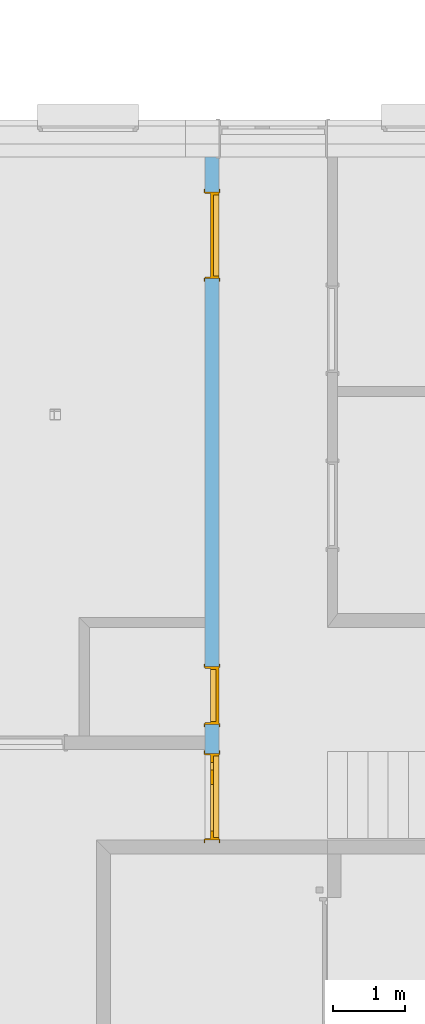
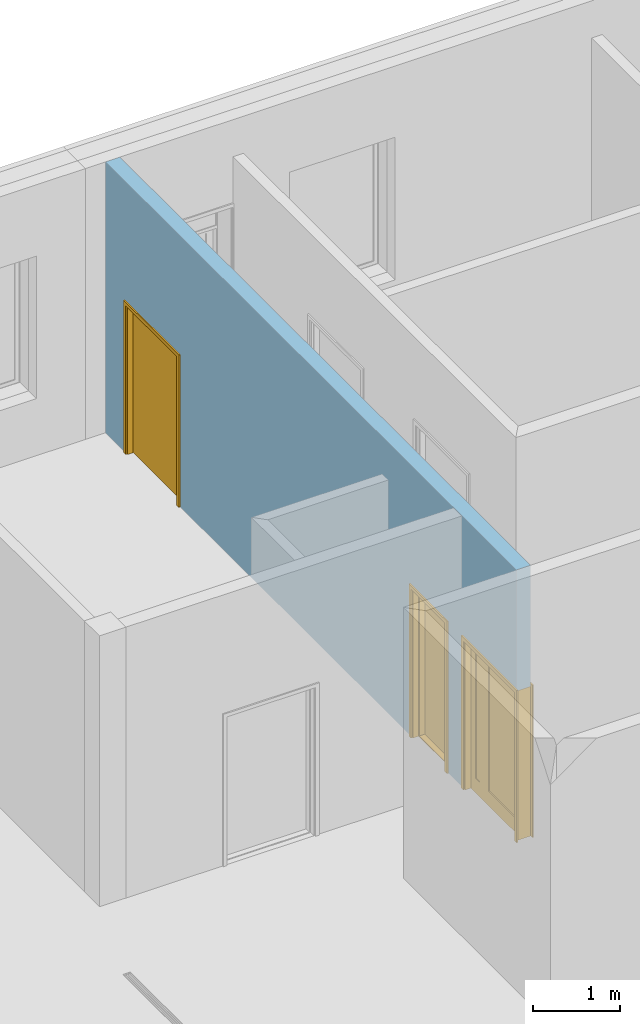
# One storey, part 38 of 112: 3 doors, 3 openings, plus 1 element that does not belong to this part.
"""IFC2X3 building model written with IfcOpenShell, lengths in millimetres."""

import ifcopenshell
import ifcopenshell.guid

model = None  # the IFC model being written
_history = None  # IfcOwnerHistory: only IFC2X3 demands one
_inside = {}  # id of a spatial element -> (the spatial element, [elements in it])
_under = {}  # id of a project, library or spatial element -> (it, [spatial elements below it])
_declared = {}  # id of a project -> (the project, [libraries it declares])
_typed = {}  # id of a type object -> (the type object, [elements of that type])
_made_of = {}  # id of a material, layer set ... -> (it, [elements and type objects made of it])


def new_model(schema):
    """Start an empty IFC model of exactly this schema.

    Asked for "IFC4X3", IfcOpenShell would pick the latest addendum, in which some entities
    have other attributes; the version numbers below select the first issue.
    IFC2X3 requires an IfcOwnerHistory on every rooted entity: one is made here for all.
    """
    global model, _history
    if schema == "IFC4X3":
        model = ifcopenshell.file(schema_version=(4, 3, 0, 0))
    else:
        model = ifcopenshell.file(schema=schema)
    _inside.clear()
    _under.clear()
    _declared.clear()
    _typed.clear()
    _made_of.clear()
    _history = None
    if model.schema == "IFC2X3":
        org = make("IfcOrganization", Name="unknown")
        user = make(
            "IfcPersonAndOrganization",
            ThePerson=make("IfcPerson", FamilyName="unknown"),
            TheOrganization=org,
        )
        app = make(
            "IfcApplication",
            ApplicationDeveloper=org,
            Version="unknown",
            ApplicationFullName="unknown",
            ApplicationIdentifier="unknown",
        )
        _history = make(
            "IfcOwnerHistory",
            OwningUser=user,
            OwningApplication=app,
            ChangeAction="ADDED",
            CreationDate=0,
        )
    return model


def make(cls, **values):
    """One entity of the class cls with the attributes given. An attribute that is None is left unset."""
    return model.create_entity(
        cls, **{name: value for name, value in values.items() if value is not None}
    )


def entity(cls, *values):
    """Any entity or typed value of the class cls, its attributes in the order of the schema. None: left unset."""
    e = model.create_entity(cls)
    for i, value in enumerate(values):
        if value is not None:
            e[i] = value
    return e


def rooted(cls, **values):
    """An entity with a GlobalId (a new one), such as an element, a storey or a relation."""
    return make(cls, GlobalId=ifcopenshell.guid.new(), OwnerHistory=_history, **values)


def si_unit(unit_type, name, prefix=None):
    """IfcSIUnit, for example si_unit("LENGTHUNIT", "METRE", prefix="MILLI")."""
    return make("IfcSIUnit", UnitType=unit_type, Prefix=prefix, Name=name)


def converted_unit(unit_type, name, factor, base, dimensions=None, offset=None):
    """IfcConversionBasedUnit, such as the inch: factor (a typed value) times the base unit."""
    return make(
        "IfcConversionBasedUnit"
        if offset is None
        else "IfcConversionBasedUnitWithOffset",
        ConversionOffset=offset,
        Dimensions=None
        if dimensions is None
        else entity("IfcDimensionalExponents", *dimensions),
        UnitType=unit_type,
        Name=name,
        ConversionFactor=make(
            "IfcMeasureWithUnit", ValueComponent=factor, UnitComponent=base
        ),
    )


def derived_unit(unit_type, elements):
    """IfcDerivedUnit: a product of units, each with its exponent."""
    return make(
        "IfcDerivedUnit",
        Elements=[
            make("IfcDerivedUnitElement", Unit=unit, Exponent=power)
            for unit, power in elements
        ],
        UnitType=unit_type,
    )


def money_unit(currency):
    """IfcMonetaryUnit."""
    return make("IfcMonetaryUnit", Currency=currency)


def assignment(units):
    """IfcUnitAssignment: the units of a project."""
    return None if units is None else make("IfcUnitAssignment", Units=units)


def point(xyz):
    """IfcCartesianPoint."""
    return None if xyz is None else make("IfcCartesianPoint", Coordinates=xyz)


def direction(xyz):
    """IfcDirection."""
    return None if xyz is None else make("IfcDirection", DirectionRatios=xyz)


def frame(location, z_axis=None, x_axis=None):
    """IfcAxis2Placement3D, a coordinate frame: its origin and axes. An axis left out is left unset."""
    return make(
        "IfcAxis2Placement3D",
        Location=point(location),
        Axis=direction(z_axis),
        RefDirection=direction(x_axis),
    )


def frame_2d(location, x_axis=None):
    """IfcAxis2Placement2D, a coordinate frame in the plane: its origin and x axis."""
    return make(
        "IfcAxis2Placement2D", Location=point(location), RefDirection=direction(x_axis)
    )


def origin_with_axes():
    """The frame at (0, 0, 0) with the z axis (0, 0, 1) and the x axis (1, 0, 0) written out."""
    return frame((0.0, 0.0, 0.0), z_axis=(0.0, 0.0, 1.0), x_axis=(1.0, 0.0, 0.0))


def origin_2d_with_axis():
    """The frame at (0, 0) in the plane with the x axis (1, 0) written out."""
    return frame_2d((0.0, 0.0), x_axis=(1.0, 0.0))


def place(relative_to, where):
    """IfcLocalPlacement: puts the frame where relative to a parent placement (None: the world)."""
    return make(
        "IfcLocalPlacement", PlacementRelTo=relative_to, RelativePlacement=where
    )


def context(
    kind, dimensions, precision=None, world=None, true_north=None, identifier=None
):
    """IfcGeometricRepresentationContext, for example the 3D "Model" context."""
    return make(
        "IfcGeometricRepresentationContext",
        ContextIdentifier=identifier,
        ContextType=kind,
        CoordinateSpaceDimension=dimensions,
        Precision=precision,
        WorldCoordinateSystem=world,
        TrueNorth=true_north,
    )


def subcontext(parent, identifier, kind, view, scale=None):
    """IfcGeometricRepresentationSubContext, for example "Body" below "Model"."""
    return make(
        "IfcGeometricRepresentationSubContext",
        ContextIdentifier=identifier,
        ContextType=kind,
        ParentContext=parent,
        TargetScale=scale,
        TargetView=view,
    )


def project(units=None, contexts=None):
    """IfcProject with its units and contexts."""
    return rooted(
        "IfcProject",
        Name="project",
        RepresentationContexts=contexts,
        UnitsInContext=assignment(units),
    )


def spatial(cls, under=None, at=None, **own):
    """A site, building, storey or space (cls), placed at a placement, below another one or the project."""
    s = rooted(cls, ObjectPlacement=at, **own)
    if under is not None:
        _under.setdefault(under.id(), (under, []))[1].append(s)
    return s


def polyline(points):
    """IfcPolyline through the points."""
    return make("IfcPolyline", Points=[point(p) for p in points])


def profile(cls, at=None, kind="AREA", **sizes):
    """A parametric profile (cls). Its sizes go by their IFC names, for example OverallWidth=200.0."""
    return make(cls, ProfileType=kind, Position=at, **sizes)


def rectangle(**sizes):
    """IfcRectangleProfileDef."""
    return profile("IfcRectangleProfileDef", **sizes)


def outline(outer, holes=None, kind="AREA"):
    """IfcArbitraryClosedProfileDef: a profile drawn as a closed curve; with holes, ...WithVoids."""
    if holes is None:
        return make("IfcArbitraryClosedProfileDef", ProfileType=kind, OuterCurve=outer)
    return make(
        "IfcArbitraryProfileDefWithVoids",
        ProfileType=kind,
        OuterCurve=outer,
        InnerCurves=holes,
    )


def extrude(swept, where, along, depth):
    """IfcExtrudedAreaSolid: the profile swept, set in the frame where, extruded along a direction by depth."""
    return make(
        "IfcExtrudedAreaSolid",
        SweptArea=swept,
        Position=where,
        ExtrudedDirection=direction(along),
        Depth=depth,
    )


def faces_of(points, faces, orient=None, outer=None):
    """IfcFace entities. A face is a list of loops; a loop is a list of indices into points, from 0.

    orient and outer hold one flag for each loop. By default every Orientation is true, the
    first loop of a face is its IfcFaceOuterBound and the others are IfcFaceBound.
    """
    made = []
    for i, loops in enumerate(faces):
        bounds = []
        for j, loop in enumerate(loops):
            is_outer = j == 0 if outer is None else outer[i][j]
            bounds.append(
                make(
                    "IfcFaceOuterBound" if is_outer else "IfcFaceBound",
                    Bound=make("IfcPolyLoop", Polygon=[points[k] for k in loop]),
                    Orientation=True if orient is None else orient[i][j],
                )
            )
        made.append(make("IfcFace", Bounds=bounds))
    return made


def open_shell(faces, orient=None, outer=None):
    """The faces of one IfcOpenShell. surface_model builds it on its shared points."""
    return ("IfcOpenShell", faces, orient, outer)


def faceted_brep(points, faces, orient=None, outer=None, voids=None):
    """IfcFacetedBrep: a solid bounded by flat faces; with voids (closed shells), ...WithVoids."""
    shared = [point(p) for p in points]
    hull = make("IfcClosedShell", CfsFaces=faces_of(shared, faces, orient, outer))
    if voids is None:
        return make("IfcFacetedBrep", Outer=hull)
    return make(
        "IfcFacetedBrepWithVoids",
        Outer=hull,
        Voids=[
            make(cls, CfsFaces=faces_of(shared, fs, o, b)) for cls, fs, o, b in voids
        ],
    )


def surface_model(cls, points, shells):
    """IfcFaceBasedSurfaceModel or IfcShellBasedSurfaceModel (cls): surfaces that need not close."""
    shared = [point(p) for p in points]
    made = [make(c, CfsFaces=faces_of(shared, fs, o, b)) for c, fs, o, b in shells]
    if cls == "IfcFaceBasedSurfaceModel":
        return make(cls, FbsmFaces=made)
    return make(cls, SbsmBoundary=made)


def shape(context_of_items, identifier, shape_type, items):
    """IfcShapeRepresentation: the items that make up one representation, for example the "Body"."""
    return make(
        "IfcShapeRepresentation",
        ContextOfItems=context_of_items,
        RepresentationIdentifier=identifier,
        RepresentationType=shape_type,
        Items=items,
    )


def material(Name=None, Category=None):
    """IfcMaterial."""
    return make("IfcMaterial", Name=Name, Category=Category)


def layer(
    of_material, thickness, ventilated=None, Name=None, Category=None, Priority=None
):
    """IfcMaterialLayer: one layer of a wall or slab, of a material (None: an air gap)."""
    return make(
        "IfcMaterialLayer",
        Material=of_material,
        LayerThickness=thickness,
        IsVentilated=ventilated,
        Name=Name,
        Category=Category,
        Priority=Priority,
    )


def layer_set(layers, Name=None):
    """IfcMaterialLayerSet."""
    return make("IfcMaterialLayerSet", MaterialLayers=layers, LayerSetName=Name)


def layer_usage(for_layer_set, set_direction, sense, offset, extent=None):
    """IfcMaterialLayerSetUsage: how a layer set lies in its element."""
    return make(
        "IfcMaterialLayerSetUsage",
        ForLayerSet=for_layer_set,
        LayerSetDirection=set_direction,
        DirectionSense=sense,
        OffsetFromReferenceLine=offset,
        ReferenceExtent=extent,
    )


def made_of(thing, what):
    """Note that an element or type object is made of a material, layer set ...; save() writes the relation."""
    if what is not None:
        _made_of.setdefault(what.id(), (what, []))[1].append(thing)
    return thing


def type_object(cls, material=None, **own):
    """A type object (cls), such as IfcWallType, which elements share."""
    return made_of(rooted(cls, **own), material)


def element(
    cls,
    number,
    at=None,
    inside=None,
    cuts=None,
    type_object=None,
    material=None,
    context=None,
    identifier="Body",
    shape_type=None,
    held_by="IfcProductDefinitionShape",
    body=None,
    shapes=None,
    **own,
):
    """One element of the class cls, such as IfcWall. Its Tag is "e" and its number.

    at: its placement. inside: the storey or other place that contains it. cuts: it is an
    opening in that element (IfcRelVoidsElement). A single representation is given by context,
    identifier, shape_type and body (its items); several are given by shapes. held_by: the class
    of the entity that holds the representations. save() writes the other relations.
    """
    e = rooted(cls, Tag="e%d" % number, ObjectPlacement=at, **own)
    if body is not None:
        shapes = [shape(context, identifier, shape_type, body)]
    if shapes is not None:
        e.Representation = make(held_by, Representations=shapes)
    if inside is not None:
        _inside.setdefault(inside.id(), (inside, []))[1].append(e)
    if cuts is not None:
        rooted(
            "IfcRelVoidsElement", RelatingBuildingElement=cuts, RelatedOpeningElement=e
        )
    if type_object is not None:
        _typed.setdefault(type_object.id(), (type_object, []))[1].append(e)
    return made_of(e, material)


def fill(opening, filler):
    """IfcRelFillsElement: the door or window that sits in an opening."""
    return rooted(
        "IfcRelFillsElement",
        RelatingOpeningElement=opening,
        RelatedBuildingElement=filler,
    )


def aggregate(whole, parts):
    """IfcRelAggregates: a whole, such as a stair, and the parts it consists of."""
    return rooted("IfcRelAggregates", RelatingObject=whole, RelatedObjects=parts)


def save(model, path):
    """Write the relations noted so far, then the file.

    IfcRelAggregates (storeys below a building ...), IfcRelContainedInSpatialStructure (elements
    in a storey), IfcRelDefinesByType, IfcRelAssociatesMaterial and IfcRelDeclares: one each for
    every whole, place, type object, material and project.
    """
    for whole, parts in _under.values():
        aggregate(whole, parts)
    for where, things in _inside.values():
        rooted(
            "IfcRelContainedInSpatialStructure",
            RelatedElements=things,
            RelatingStructure=where,
        )
    for kind, things in _typed.values():
        rooted("IfcRelDefinesByType", RelatedObjects=things, RelatingType=kind)
    for what, things in _made_of.values():
        rooted("IfcRelAssociatesMaterial", RelatedObjects=things, RelatingMaterial=what)
    for by, libraries in _declared.values():
        rooted("IfcRelDeclares", RelatingContext=by, RelatedDefinitions=libraries)
    model.write(path)


model = new_model("IFC2X3")

# Units and contexts
model_context = context("Model", 3, precision=0.01, world=origin_with_axes(), true_north=direction((0.0, 1.0)))
body_context = subcontext(model_context, "Body", "Model", "MODEL_VIEW")
ifc_project = project(units=[si_unit("LENGTHUNIT", "METRE", prefix="MILLI"), si_unit("AREAUNIT", "SQUARE_METRE"), si_unit("VOLUMEUNIT", "CUBIC_METRE"), converted_unit("PLANEANGLEUNIT", "DEGREE", entity("IfcPlaneAngleMeasure", 0.0174532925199), si_unit("PLANEANGLEUNIT", "RADIAN"), dimensions=[0, 0, 0, 0, 0, 0, 0]), si_unit("SOLIDANGLEUNIT", "STERADIAN"), money_unit("EUR"), converted_unit("TIMEUNIT", "Year", entity("IfcTimeMeasure", 31556926.0), si_unit("TIMEUNIT", "SECOND"), dimensions=[0, 0, 1, 0, 0, 0, 0]), si_unit("MASSUNIT", "GRAM", prefix="KILO"), si_unit("THERMODYNAMICTEMPERATUREUNIT", "DEGREE_CELSIUS"), si_unit("LUMINOUSINTENSITYUNIT", "LUMEN"), si_unit("ENERGYUNIT", "JOULE", prefix="MEGA"), derived_unit("THERMALCONDUCTANCEUNIT", [(si_unit("POWERUNIT", "WATT"), 1), (si_unit("LENGTHUNIT", "METRE"), -1), (si_unit("THERMODYNAMICTEMPERATUREUNIT", "KELVIN"), -1)]), derived_unit("SPECIFICHEATCAPACITYUNIT", [(si_unit("ENERGYUNIT", "JOULE"), 1), (si_unit("MASSUNIT", "GRAM", prefix="KILO"), -1), (si_unit("THERMODYNAMICTEMPERATUREUNIT", "KELVIN"), -1)]), derived_unit("MASSDENSITYUNIT", [(si_unit("MASSUNIT", "GRAM", prefix="KILO"), 1), (si_unit("VOLUMEUNIT", "CUBIC_METRE"), -1)])], contexts=[model_context])

# Site, building, storey
site_placement = place(None, origin_with_axes())
site = spatial("IfcSite", under=ifc_project, at=site_placement, Name="Politse- ja Piirivalveameti ning Päästeameti ühishoone", CompositionType="ELEMENT")
building_placement = place(site_placement, origin_with_axes())
building = spatial("IfcBuilding", under=site, at=building_placement, Name="Politse- ja Piirivalveameti ning Päästeameti ühishoone", CompositionType="ELEMENT")
storey_placement = place(building_placement, origin_with_axes())
storey = spatial("IfcBuildingStorey", under=building, at=storey_placement, Name="Esimene korrus", CompositionType="ELEMENT", Elevation=0.0)

# Wall, openings, doors
ifc_material = material(Name="KON-05_Betoon Plokk - Konstuktsioon")
ifc_layer = layer(ifc_material, 190.0, ventilated="UNKNOWN")
ifc_layer_set = layer_set([ifc_layer], Name="SS-03_Sisesein 190")
ifc_layer_usage = layer_usage(ifc_layer_set, "AXIS2", "POSITIVE", -190.0)
wall_type = type_object("IfcWallType", Name="SS-03_Sisesein 190 190", PredefinedType="NOTDEFINED")
wall_placement = place(storey_placement, frame((16900.0858195, 20999.9520832, 0.0), z_axis=(0.0, 0.0, 1.0), x_axis=(0.0, -1.0, 0.0)))
wall = element("IfcWallStandardCase", 1, at=wall_placement, inside=storey, type_object=wall_type, material=ifc_layer_usage, Name="SS-03", context=body_context, shape_type="SweptSolid", body=[
    extrude(outline(polyline([(0.0, -190.0), (9439.9322221, -190.0), (9439.9322221, 0.0), (0.0, 0.0), (0.0, -190.0)])), origin_with_axes(), (0.0, 0.0, 1.0), 3800.0),
])
opening_1_placement = place(wall_placement, frame((1079.90754028, 0.0, 0.0), z_axis=(0.0, 0.0, 1.0), x_axis=(1.0, 0.0, 0.0)))
opening_1 = element("IfcOpeningElement", 2, at=opening_1_placement, cuts=wall, Name="TU-01-2", context=body_context, shape_type="SweptSolid", body=[
    extrude(rectangle(XDim=1200.0, YDim=2100.0, at=origin_2d_with_axis()), frame((0.0, -190.0, 1050.0), z_axis=(0.0, -1.0, 0.0), x_axis=(1.0, 0.0, 0.0)), (0.0, 0.0, -1.0), 570.0),
    extrude(rectangle(XDim=1274.0, YDim=2137.0, at=origin_2d_with_axis()), frame((0.0, -190.0, 1068.5), z_axis=(0.0, -1.0, 0.0), x_axis=(1.0, 0.0, 0.0)), (0.0, 0.0, 1.0), 190.0),
    extrude(rectangle(XDim=1274.0, YDim=2137.0, at=origin_2d_with_axis()), frame((0.0, 0.0, 1068.5), z_axis=(0.0, 1.0, 0.0), x_axis=(1.0, 0.0, 0.0)), (0.0, 0.0, 1.0), 190.0),
])
opening_2_placement = place(wall_placement, frame((7439.98395163, 0.0, 0.0), z_axis=(0.0, 0.0, 1.0), x_axis=(1.0, 0.0, 0.0)))
opening_2 = element("IfcOpeningElement", 3, at=opening_2_placement, cuts=wall, Name="SU-01-6", context=body_context, shape_type="SweptSolid", body=[
    extrude(rectangle(XDim=800.0, YDim=2100.0, at=origin_2d_with_axis()), frame((0.0, -190.0, 1050.0), z_axis=(0.0, 1.0, 0.0), x_axis=(1.0, 0.0, 0.0)), (0.0, 0.0, 1.0), 570.0),
    extrude(rectangle(XDim=874.0, YDim=2137.0, at=origin_2d_with_axis()), frame((0.0, -190.0, 1068.5), z_axis=(0.0, 1.0, 0.0), x_axis=(1.0, 0.0, 0.0)), (0.0, 0.0, -1.0), 190.0),
    extrude(rectangle(XDim=874.0, YDim=2137.0, at=origin_2d_with_axis()), frame((0.0, 0.0, 1068.5), z_axis=(0.0, -1.0, 0.0), x_axis=(1.0, 0.0, 0.0)), (0.0, 0.0, -1.0), 190.0),
])
opening_3_placement = place(wall_placement, frame((8839.9322221, 0.0, 0.0), z_axis=(0.0, 0.0, 1.0), x_axis=(1.0, 0.0, 0.0)))
opening_3 = element("IfcOpeningElement", 4, at=opening_3_placement, cuts=wall, Name="TU-01-1", context=body_context, shape_type="SweptSolid", body=[
    extrude(rectangle(XDim=1200.0, YDim=2100.0, at=origin_2d_with_axis()), frame((0.0, -190.0, 1050.0), z_axis=(0.0, 1.0, 0.0), x_axis=(-1.0, 0.0, 0.0)), (0.0, 0.0, 1.0), 570.0),
    extrude(rectangle(XDim=1274.0, YDim=2137.0, at=origin_2d_with_axis()), frame((0.0, -190.0, 1068.5), z_axis=(0.0, 1.0, 0.0), x_axis=(-1.0, 0.0, 0.0)), (0.0, 0.0, -1.0), 190.0),
    extrude(rectangle(XDim=1274.0, YDim=2137.0, at=origin_2d_with_axis()), frame((0.0, 0.0, 1068.5), z_axis=(0.0, -1.0, 0.0), x_axis=(-1.0, 0.0, 0.0)), (0.0, 0.0, -1.0), 190.0),
])
door_style_1 = type_object("IfcDoorStyle", Name="Double Door Asymmetric 23", ConstructionType="NOTDEFINED", OperationType="DOUBLE_DOOR_SINGLE_SWING", ParameterTakesPrecedence=False, Sizeable=False)
door_1_placement = place(opening_1_placement, frame((600.0, 0.0, 0.0), z_axis=(0.0, 0.0, 1.0), x_axis=(-1.0, 0.0, 0.0)))
door_1 = element("IfcDoor", 5, at=door_1_placement, inside=storey, type_object=door_style_1, Name="TU-01-2", ObjectType="DOOR", OverallHeight=2100.0, OverallWidth=1200.0, context=body_context, shape_type="Brep", body=[
    faceted_brep([(40.0, 0.0, 0.0), (40.0, 0.0, 12.0), (40.0, 75.0, 12.0), (40.0, 75.0, 0.0), (1160.0, 0.0, 0.0), (1160.0, 0.0, 12.0), (1160.0, 75.0, 12.0), (1172.0, 75.0, 12.0), (28.0, 75.0, 12.0), (28.0, 75.0, 0.0), (1172.0, 75.0, 0.0), (1160.0, 75.0, 0.0)], [[[0, 1, 2, 3]], [[4, 5, 1, 0]], [[1, 5, 6, 7, 8, 2]], [[3, 2, 8, 9]], [[0, 3, 9, 10, 11, 4]], [[11, 6, 5, 4]], [[10, 7, 6, 11]], [[9, 8, 7, 10]]]),
    faceted_brep([(1200.0, 115.0, 0.0), (1175.0, 115.0, 0.0), (1175.0, 190.0, 0.0), (1200.0, 190.0, 0.0), (1200.0, 115.0, 2100.0), (1175.0, 115.0, 2075.0), (1175.0, 190.0, 2075.0), (1200.0, 190.0, 2100.0)], [[[0, 1, 2, 3]], [[0, 4, 5, 1]], [[1, 5, 6, 2]], [[3, 2, 6, 7]], [[4, 0, 3, 7]], [[5, 4, 7, 6]]]),
    faceted_brep([(0.0, 115.0, 2100.0), (25.0, 115.0, 2075.0), (25.0, 190.0, 2075.0), (0.0, 190.0, 2100.0), (0.0, 115.0, 0.0), (25.0, 115.0, 0.0), (25.0, 190.0, 0.0), (0.0, 190.0, 0.0)], [[[0, 1, 2, 3]], [[0, 4, 5, 1]], [[1, 5, 6, 2]], [[3, 2, 6, 7]], [[4, 0, 3, 7]], [[5, 4, 7, 6]]]),
    faceted_brep([(1175.0, 115.0, 2075.0), (25.0, 115.0, 2075.0), (25.0, 190.0, 2075.0), (1175.0, 190.0, 2075.0), (1200.0, 115.0, 2100.0), (0.0, 115.0, 2100.0), (0.0, 190.0, 2100.0), (1200.0, 190.0, 2100.0)], [[[0, 1, 2, 3]], [[0, 4, 5, 1]], [[1, 5, 6, 2]], [[3, 2, 6, 7]], [[4, 0, 3, 7]], [[5, 4, 7, 6]]]),
    faceted_brep([(1237.0, 209.0, 0.0), (1237.0, 190.0, 0.0), (1187.0, 190.0, 0.0), (1187.0, 209.0, 0.0), (1237.0, 209.0, 2137.0), (1237.0, 190.0, 2137.0), (1187.0, 190.0, 2087.0), (1187.0, 209.0, 2087.0)], [[[0, 1, 2, 3]], [[4, 5, 1, 0]], [[1, 5, 6, 2]], [[3, 2, 6, 7]], [[0, 3, 7, 4]], [[7, 6, 5, 4]]]),
    faceted_brep([(-37.0, 209.0, 2137.0), (-37.0, 190.0, 2137.0), (13.0, 190.0, 2087.0), (13.0, 209.0, 2087.0), (-37.0, 209.0, 0.0), (-37.0, 190.0, 0.0), (13.0, 190.0, 0.0), (13.0, 209.0, 0.0)], [[[0, 1, 2, 3]], [[4, 5, 1, 0]], [[1, 5, 6, 2]], [[3, 2, 6, 7]], [[0, 3, 7, 4]], [[7, 6, 5, 4]]]),
    faceted_brep([(1237.0, 209.0, 2137.0), (1237.0, 190.0, 2137.0), (1187.0, 190.0, 2087.0), (1187.0, 209.0, 2087.0), (-37.0, 209.0, 2137.0), (-37.0, 190.0, 2137.0), (13.0, 190.0, 2087.0), (13.0, 209.0, 2087.0)], [[[0, 1, 2, 3]], [[4, 5, 1, 0]], [[1, 5, 6, 2]], [[3, 2, 6, 7]], [[0, 3, 7, 4]], [[7, 6, 5, 4]]]),
    faceted_brep([(1237.0, -19.0, 0.0), (1187.0, -19.0, 0.0), (1187.0, 0.0, 0.0), (1237.0, 0.0, 0.0), (1237.0, -19.0, 2137.0), (1187.0, -19.0, 2087.0), (1187.0, 0.0, 2087.0), (1237.0, 0.0, 2137.0)], [[[0, 1, 2, 3]], [[0, 4, 5, 1]], [[1, 5, 6, 2]], [[3, 2, 6, 7]], [[4, 0, 3, 7]], [[5, 4, 7, 6]]]),
    faceted_brep([(-37.0, -19.0, 2137.0), (13.0, -19.0, 2087.0), (13.0, 0.0, 2087.0), (-37.0, 0.0, 2137.0), (-37.0, -19.0, 0.0), (13.0, -19.0, 0.0), (13.0, 0.0, 0.0), (-37.0, 0.0, 0.0)], [[[0, 1, 2, 3]], [[0, 4, 5, 1]], [[1, 5, 6, 2]], [[3, 2, 6, 7]], [[4, 0, 3, 7]], [[5, 4, 7, 6]]]),
    faceted_brep([(1237.0, -19.0, 2137.0), (1187.0, -19.0, 2087.0), (1187.0, 0.0, 2087.0), (1237.0, 0.0, 2137.0), (-37.0, -19.0, 2137.0), (13.0, -19.0, 2087.0), (13.0, 0.0, 2087.0), (-37.0, 0.0, 2137.0)], [[[0, 1, 2, 3]], [[0, 4, 5, 1]], [[1, 5, 6, 2]], [[3, 2, 6, 7]], [[4, 0, 3, 7]], [[5, 4, 7, 6]]]),
    faceted_brep([(1160.0, 75.0, 0.0), (1160.0, 0.0, 0.0), (1160.0, 0.0, 2060.0), (1160.0, 75.0, 2060.0), (1172.0, 75.0, 0.0), (1172.0, 115.0, 0.0), (1200.0, 115.0, 0.0), (1200.0, 0.0, 0.0), (1200.0, 0.0, 2060.0), (1172.0, 75.0, 2060.0), (1200.0, 115.0, 2060.0), (1172.0, 115.0, 2060.0)], [[[0, 1, 2, 3]], [[4, 5, 6, 7, 1, 0]], [[1, 7, 8, 2]], [[9, 3, 2, 8, 10, 11]], [[9, 4, 0, 3]], [[11, 5, 4, 9]], [[11, 10, 6, 5]], [[6, 10, 8, 7]]]),
    faceted_brep([(28.0, 75.0, 2060.0), (28.0, 115.0, 2060.0), (0.0, 115.0, 2060.0), (0.0, 0.0, 2060.0), (40.0, 0.0, 2060.0), (40.0, 75.0, 2060.0), (28.0, 75.0, 0.0), (28.0, 115.0, 0.0), (0.0, 115.0, 0.0), (0.0, 0.0, 0.0), (40.0, 0.0, 0.0), (40.0, 75.0, 0.0)], [[[0, 1, 2, 3, 4, 5]], [[0, 6, 7, 1]], [[7, 8, 2, 1]], [[2, 8, 9, 3]], [[3, 9, 10, 4]], [[5, 4, 10, 11]], [[5, 11, 6, 0]], [[6, 11, 10, 9, 8, 7]]]),
    faceted_brep([(1172.0, 115.0, 2072.0), (28.0, 115.0, 2072.0), (28.0, 115.0, 2060.0), (0.0, 115.0, 2060.0), (0.0, 115.0, 2100.0), (1200.0, 115.0, 2100.0), (1200.0, 115.0, 2060.0), (1172.0, 115.0, 2060.0), (1172.0, 75.0, 2072.0), (28.0, 75.0, 2072.0), (28.0, 75.0, 2060.0), (40.0, 75.0, 2060.0), (40.0, 0.0, 2060.0), (0.0, 0.0, 2060.0), (0.0, 0.0, 2100.0), (1200.0, 0.0, 2100.0), (1200.0, 0.0, 2060.0), (1172.0, 75.0, 2060.0), (1160.0, 0.0, 2060.0), (1160.0, 75.0, 2060.0)], [[[0, 1, 2, 3, 4, 5, 6, 7]], [[0, 8, 9, 1]], [[1, 9, 10, 2]], [[10, 11, 12, 13, 3, 2]], [[4, 3, 13, 14]], [[5, 4, 14, 15]], [[6, 5, 15, 16]], [[17, 7, 6, 16, 18, 19]], [[7, 17, 8, 0]], [[10, 9, 8, 17, 19, 11]], [[19, 18, 12, 11]], [[12, 18, 16, 15, 14, 13]]]),
    faceted_brep([(28.0, 115.0, 0.0), (328.0, 115.0, 0.0), (328.0, 75.0, 0.0), (28.0, 75.0, 0.0), (28.0, 115.0, 2072.0), (328.0, 115.0, 2072.0), (328.0, 75.0, 2072.0), (28.0, 75.0, 2072.0)], [[[0, 1, 2, 3]], [[0, 4, 5, 1]], [[1, 5, 6, 2]], [[3, 2, 6, 7]], [[4, 0, 3, 7]], [[5, 4, 7, 6]]]),
    faceted_brep([(1172.0, 115.0, 0.0), (1172.0, 75.0, 0.0), (328.0, 75.0, 0.0), (328.0, 115.0, 0.0), (1172.0, 115.0, 2072.0), (1172.0, 75.0, 2072.0), (328.0, 75.0, 2072.0), (328.0, 115.0, 2072.0)], [[[0, 1, 2, 3]], [[4, 5, 1, 0]], [[1, 5, 6, 2]], [[3, 2, 6, 7]], [[0, 3, 7, 4]], [[7, 6, 5, 4]]]),
])
fill(opening_1, door_1)
door_style_2 = type_object("IfcDoorStyle", Name="Door 23", ConstructionType="NOTDEFINED", OperationType="SINGLE_SWING_RIGHT", ParameterTakesPrecedence=False, Sizeable=False)
door_2_placement = place(opening_2_placement, frame((-400.0, 0.0, 0.0), z_axis=(0.0, 0.0, 1.0), x_axis=(1.0, 0.0, 0.0)))
door_2 = element("IfcDoor", 6, at=door_2_placement, inside=storey, type_object=door_style_2, Name="SU-01-6", ObjectType="DOOR", OverallHeight=2100.0, OverallWidth=800.0, context=body_context, shape_type="Brep", body=[
    faceted_brep([(772.0, -40.0, 0.0), (772.0, -40.0, 12.0), (760.0, -40.0, 12.0), (760.0, -40.0, 0.0), (28.0, -40.0, 0.0), (28.0, -40.0, 12.0), (40.0, -40.0, 12.0), (40.0, -115.0, 12.0), (760.0, -115.0, 12.0), (760.0, -115.0, 0.0), (40.0, -115.0, 0.0), (40.0, -40.0, 0.0)], [[[0, 1, 2, 3]], [[4, 5, 1, 0]], [[1, 5, 6, 7, 8, 2]], [[3, 2, 8, 9]], [[0, 3, 9, 10, 11, 4]], [[11, 6, 5, 4]], [[10, 7, 6, 11]], [[9, 8, 7, 10]]]),
    faceted_brep([(0.0, -115.0, 0.0), (25.0, -115.0, 0.0), (25.0, -190.0, 0.0), (0.0, -190.0, 0.0), (0.0, -115.0, 2100.0), (25.0, -115.0, 2075.0), (25.0, -190.0, 2075.0), (0.0, -190.0, 2100.0)], [[[0, 1, 2, 3]], [[0, 4, 5, 1]], [[1, 5, 6, 2]], [[3, 2, 6, 7]], [[4, 0, 3, 7]], [[5, 4, 7, 6]]]),
    faceted_brep([(800.0, -115.0, 2100.0), (775.0, -115.0, 2075.0), (775.0, -190.0, 2075.0), (800.0, -190.0, 2100.0), (800.0, -115.0, 0.0), (775.0, -115.0, 0.0), (775.0, -190.0, 0.0), (800.0, -190.0, 0.0)], [[[0, 1, 2, 3]], [[0, 4, 5, 1]], [[1, 5, 6, 2]], [[3, 2, 6, 7]], [[4, 0, 3, 7]], [[5, 4, 7, 6]]]),
    faceted_brep([(25.0, -115.0, 2075.0), (775.0, -115.0, 2075.0), (775.0, -190.0, 2075.0), (25.0, -190.0, 2075.0), (0.0, -115.0, 2100.0), (800.0, -115.0, 2100.0), (800.0, -190.0, 2100.0), (0.0, -190.0, 2100.0)], [[[0, 1, 2, 3]], [[0, 4, 5, 1]], [[1, 5, 6, 2]], [[3, 2, 6, 7]], [[4, 0, 3, 7]], [[5, 4, 7, 6]]]),
    faceted_brep([(-37.0, -209.0, 0.0), (-37.0, -190.0, 0.0), (13.0, -190.0, 0.0), (13.0, -209.0, 0.0), (-37.0, -209.0, 2137.0), (-37.0, -190.0, 2137.0), (13.0, -190.0, 2087.0), (13.0, -209.0, 2087.0)], [[[0, 1, 2, 3]], [[4, 5, 1, 0]], [[1, 5, 6, 2]], [[3, 2, 6, 7]], [[0, 3, 7, 4]], [[7, 6, 5, 4]]]),
    faceted_brep([(837.0, -209.0, 2137.0), (837.0, -190.0, 2137.0), (787.0, -190.0, 2087.0), (787.0, -209.0, 2087.0), (837.0, -209.0, 0.0), (837.0, -190.0, 0.0), (787.0, -190.0, 0.0), (787.0, -209.0, 0.0)], [[[0, 1, 2, 3]], [[4, 5, 1, 0]], [[1, 5, 6, 2]], [[3, 2, 6, 7]], [[0, 3, 7, 4]], [[7, 6, 5, 4]]]),
    faceted_brep([(-37.0, -209.0, 2137.0), (-37.0, -190.0, 2137.0), (13.0, -190.0, 2087.0), (13.0, -209.0, 2087.0), (837.0, -209.0, 2137.0), (837.0, -190.0, 2137.0), (787.0, -190.0, 2087.0), (787.0, -209.0, 2087.0)], [[[0, 1, 2, 3]], [[4, 5, 1, 0]], [[1, 5, 6, 2]], [[3, 2, 6, 7]], [[0, 3, 7, 4]], [[7, 6, 5, 4]]]),
    faceted_brep([(-37.0, 19.0, 0.0), (13.0, 19.0, 0.0), (13.0, 0.0, 0.0), (-37.0, 0.0, 0.0), (-37.0, 19.0, 2137.0), (13.0, 19.0, 2087.0), (13.0, 0.0, 2087.0), (-37.0, 0.0, 2137.0)], [[[0, 1, 2, 3]], [[0, 4, 5, 1]], [[1, 5, 6, 2]], [[3, 2, 6, 7]], [[4, 0, 3, 7]], [[5, 4, 7, 6]]]),
    faceted_brep([(837.0, 19.0, 2137.0), (787.0, 19.0, 2087.0), (787.0, 0.0, 2087.0), (837.0, 0.0, 2137.0), (837.0, 19.0, 0.0), (787.0, 19.0, 0.0), (787.0, 0.0, 0.0), (837.0, 0.0, 0.0)], [[[0, 1, 2, 3]], [[0, 4, 5, 1]], [[1, 5, 6, 2]], [[3, 2, 6, 7]], [[4, 0, 3, 7]], [[5, 4, 7, 6]]]),
    faceted_brep([(-37.0, 19.0, 2137.0), (13.0, 19.0, 2087.0), (13.0, 0.0, 2087.0), (-37.0, 0.0, 2137.0), (837.0, 19.0, 2137.0), (787.0, 19.0, 2087.0), (787.0, 0.0, 2087.0), (837.0, 0.0, 2137.0)], [[[0, 1, 2, 3]], [[0, 4, 5, 1]], [[1, 5, 6, 2]], [[3, 2, 6, 7]], [[4, 0, 3, 7]], [[5, 4, 7, 6]]]),
    faceted_brep([(40.0, -40.0, 0.0), (40.0, -40.0, 2060.0), (40.0, -115.0, 2060.0), (40.0, -115.0, 0.0), (28.0, -40.0, 2060.0), (28.0, -40.0, 0.0), (28.0, 0.0, 2060.0), (0.0, 0.0, 2060.0), (0.0, -115.0, 2060.0), (0.0, -115.0, 0.0), (0.0, 0.0, 0.0), (28.0, 0.0, 0.0)], [[[0, 1, 2, 3]], [[4, 1, 0, 5]], [[4, 6, 7, 8, 2, 1]], [[3, 2, 8, 9]], [[5, 0, 3, 9, 10, 11]], [[6, 4, 5, 11]], [[6, 11, 10, 7]], [[10, 9, 8, 7]]]),
    faceted_brep([(772.0, -40.0, 2060.0), (760.0, -40.0, 2060.0), (760.0, -115.0, 2060.0), (800.0, -115.0, 2060.0), (800.0, 0.0, 2060.0), (772.0, 0.0, 2060.0), (772.0, -40.0, 0.0), (760.0, -40.0, 0.0), (760.0, -115.0, 0.0), (800.0, -115.0, 0.0), (800.0, 0.0, 0.0), (772.0, 0.0, 0.0)], [[[0, 1, 2, 3, 4, 5]], [[1, 0, 6, 7]], [[1, 7, 8, 2]], [[3, 2, 8, 9]], [[4, 3, 9, 10]], [[11, 5, 4, 10]], [[0, 5, 11, 6]], [[6, 11, 10, 9, 8, 7]]]),
    faceted_brep([(28.0, 0.0, 2072.0), (28.0, 0.0, 2060.0), (0.0, 0.0, 2060.0), (0.0, 0.0, 2100.0), (800.0, 0.0, 2100.0), (800.0, 0.0, 2060.0), (772.0, 0.0, 2060.0), (772.0, 0.0, 2072.0), (28.0, -40.0, 2072.0), (28.0, -40.0, 2060.0), (40.0, -40.0, 2060.0), (40.0, -115.0, 2060.0), (0.0, -115.0, 2060.0), (0.0, -115.0, 2100.0), (800.0, -115.0, 2100.0), (800.0, -115.0, 2060.0), (772.0, -40.0, 2060.0), (760.0, -115.0, 2060.0), (760.0, -40.0, 2060.0), (772.0, -40.0, 2072.0)], [[[0, 1, 2, 3, 4, 5, 6, 7]], [[1, 0, 8, 9]], [[9, 10, 11, 12, 2, 1]], [[2, 12, 13, 3]], [[3, 13, 14, 4]], [[4, 14, 15, 5]], [[16, 6, 5, 15, 17, 18]], [[7, 6, 16, 19]], [[0, 7, 19, 8]], [[16, 18, 10, 9, 8, 19]], [[10, 18, 17, 11]], [[17, 15, 14, 13, 12, 11]]]),
    faceted_brep([(772.0, 0.0, 0.0), (772.0, -40.0, 0.0), (28.0, -40.0, 0.0), (28.0, 0.0, 0.0), (772.0, 0.0, 2072.0), (772.0, -40.0, 2072.0), (28.0, -40.0, 2072.0), (28.0, 0.0, 2072.0)], [[[0, 1, 2, 3]], [[4, 5, 1, 0]], [[1, 5, 6, 2]], [[3, 2, 6, 7]], [[0, 3, 7, 4]], [[7, 6, 5, 4]]]),
])
fill(opening_2, door_2)
door_style_3 = type_object("IfcDoorStyle", Name="Double Door Asymmetric 23", ConstructionType="NOTDEFINED", OperationType="DOUBLE_DOOR_SINGLE_SWING", ParameterTakesPrecedence=False, Sizeable=False)
door_3_placement = place(opening_3_placement, frame((600.0, 0.0, 0.0), z_axis=(0.0, 0.0, 1.0), x_axis=(-1.0, 0.0, 0.0)))
door_3 = element("IfcDoor", 7, at=door_3_placement, inside=storey, type_object=door_style_3, Name="TU-01-1", ObjectType="DOOR", OverallHeight=2100.0, OverallWidth=1200.0, context=body_context, shape_type="SurfaceModel", body=[
    faceted_brep([(1160.0, 0.0, 0.0), (1160.0, 75.0, 0.0), (1160.0, 75.0, 12.0), (1160.0, 0.0, 12.0), (40.0, 0.0, 0.0), (40.0, 75.0, 0.0), (28.0, 75.0, 0.0), (1172.0, 75.0, 0.0), (1172.0, 75.0, 12.0), (28.0, 75.0, 12.0), (40.0, 75.0, 12.0), (40.0, 0.0, 12.0)], [[[0, 1, 2, 3]], [[0, 4, 5, 6, 7, 1]], [[1, 7, 8, 2]], [[3, 2, 8, 9, 10, 11]], [[4, 0, 3, 11]], [[5, 4, 11, 10]], [[6, 5, 10, 9]], [[7, 6, 9, 8]]]),
    faceted_brep([(0.0, 115.0, 0.0), (0.0, 190.0, 0.0), (25.0, 190.0, 0.0), (25.0, 115.0, 0.0), (0.0, 115.0, 2100.0), (0.0, 190.0, 2100.0), (25.0, 190.0, 2075.0), (25.0, 115.0, 2075.0)], [[[0, 1, 2, 3]], [[4, 5, 1, 0]], [[1, 5, 6, 2]], [[3, 2, 6, 7]], [[0, 3, 7, 4]], [[7, 6, 5, 4]]]),
    faceted_brep([(1200.0, 115.0, 2100.0), (1200.0, 190.0, 2100.0), (1175.0, 190.0, 2075.0), (1175.0, 115.0, 2075.0), (1200.0, 115.0, 0.0), (1200.0, 190.0, 0.0), (1175.0, 190.0, 0.0), (1175.0, 115.0, 0.0)], [[[0, 1, 2, 3]], [[4, 5, 1, 0]], [[1, 5, 6, 2]], [[3, 2, 6, 7]], [[0, 3, 7, 4]], [[7, 6, 5, 4]]]),
    faceted_brep([(25.0, 115.0, 2075.0), (25.0, 190.0, 2075.0), (1175.0, 190.0, 2075.0), (1175.0, 115.0, 2075.0), (0.0, 115.0, 2100.0), (0.0, 190.0, 2100.0), (1200.0, 190.0, 2100.0), (1200.0, 115.0, 2100.0)], [[[0, 1, 2, 3]], [[4, 5, 1, 0]], [[1, 5, 6, 2]], [[3, 2, 6, 7]], [[0, 3, 7, 4]], [[7, 6, 5, 4]]]),
    faceted_brep([(-37.0, 209.0, 0.0), (13.0, 209.0, 0.0), (13.0, 190.0, 0.0), (-37.0, 190.0, 0.0), (-37.0, 209.0, 2137.0), (13.0, 209.0, 2087.0), (13.0, 190.0, 2087.0), (-37.0, 190.0, 2137.0)], [[[0, 1, 2, 3]], [[0, 4, 5, 1]], [[1, 5, 6, 2]], [[3, 2, 6, 7]], [[4, 0, 3, 7]], [[5, 4, 7, 6]]]),
    faceted_brep([(1237.0, 209.0, 2137.0), (1187.0, 209.0, 2087.0), (1187.0, 190.0, 2087.0), (1237.0, 190.0, 2137.0), (1237.0, 209.0, 0.0), (1187.0, 209.0, 0.0), (1187.0, 190.0, 0.0), (1237.0, 190.0, 0.0)], [[[0, 1, 2, 3]], [[0, 4, 5, 1]], [[1, 5, 6, 2]], [[3, 2, 6, 7]], [[4, 0, 3, 7]], [[5, 4, 7, 6]]]),
    faceted_brep([(-37.0, 209.0, 2137.0), (13.0, 209.0, 2087.0), (13.0, 190.0, 2087.0), (-37.0, 190.0, 2137.0), (1237.0, 209.0, 2137.0), (1187.0, 209.0, 2087.0), (1187.0, 190.0, 2087.0), (1237.0, 190.0, 2137.0)], [[[0, 1, 2, 3]], [[0, 4, 5, 1]], [[1, 5, 6, 2]], [[3, 2, 6, 7]], [[4, 0, 3, 7]], [[5, 4, 7, 6]]]),
    faceted_brep([(-37.0, -19.0, 0.0), (-37.0, 0.0, 0.0), (13.0, 0.0, 0.0), (13.0, -19.0, 0.0), (-37.0, -19.0, 2137.0), (-37.0, 0.0, 2137.0), (13.0, 0.0, 2087.0), (13.0, -19.0, 2087.0)], [[[0, 1, 2, 3]], [[4, 5, 1, 0]], [[1, 5, 6, 2]], [[3, 2, 6, 7]], [[0, 3, 7, 4]], [[7, 6, 5, 4]]]),
    faceted_brep([(1237.0, -19.0, 2137.0), (1237.0, 0.0, 2137.0), (1187.0, 0.0, 2087.0), (1187.0, -19.0, 2087.0), (1237.0, -19.0, 0.0), (1237.0, 0.0, 0.0), (1187.0, 0.0, 0.0), (1187.0, -19.0, 0.0)], [[[0, 1, 2, 3]], [[4, 5, 1, 0]], [[1, 5, 6, 2]], [[3, 2, 6, 7]], [[0, 3, 7, 4]], [[7, 6, 5, 4]]]),
    faceted_brep([(-37.0, -19.0, 2137.0), (-37.0, 0.0, 2137.0), (13.0, 0.0, 2087.0), (13.0, -19.0, 2087.0), (1237.0, -19.0, 2137.0), (1237.0, 0.0, 2137.0), (1187.0, 0.0, 2087.0), (1187.0, -19.0, 2087.0)], [[[0, 1, 2, 3]], [[4, 5, 1, 0]], [[1, 5, 6, 2]], [[3, 2, 6, 7]], [[0, 3, 7, 4]], [[7, 6, 5, 4]]]),
    faceted_brep([(40.0, 75.0, 0.0), (40.0, 75.0, 2060.0), (40.0, 0.0, 2060.0), (40.0, 0.0, 0.0), (28.0, 75.0, 2060.0), (28.0, 75.0, 0.0), (28.0, 115.0, 2060.0), (0.0, 115.0, 2060.0), (0.0, 0.0, 2060.0), (0.0, 0.0, 0.0), (0.0, 115.0, 0.0), (28.0, 115.0, 0.0)], [[[0, 1, 2, 3]], [[4, 1, 0, 5]], [[4, 6, 7, 8, 2, 1]], [[3, 2, 8, 9]], [[5, 0, 3, 9, 10, 11]], [[6, 4, 5, 11]], [[6, 11, 10, 7]], [[10, 9, 8, 7]]]),
    faceted_brep([(1172.0, 75.0, 2060.0), (1160.0, 75.0, 2060.0), (1160.0, 0.0, 2060.0), (1200.0, 0.0, 2060.0), (1200.0, 115.0, 2060.0), (1172.0, 115.0, 2060.0), (1172.0, 75.0, 0.0), (1160.0, 75.0, 0.0), (1160.0, 0.0, 0.0), (1200.0, 0.0, 0.0), (1200.0, 115.0, 0.0), (1172.0, 115.0, 0.0)], [[[0, 1, 2, 3, 4, 5]], [[1, 0, 6, 7]], [[1, 7, 8, 2]], [[3, 2, 8, 9]], [[4, 3, 9, 10]], [[11, 5, 4, 10]], [[0, 5, 11, 6]], [[6, 11, 10, 9, 8, 7]]]),
    faceted_brep([(28.0, 115.0, 2072.0), (28.0, 115.0, 2060.0), (0.0, 115.0, 2060.0), (0.0, 115.0, 2100.0), (1200.0, 115.0, 2100.0), (1200.0, 115.0, 2060.0), (1172.0, 115.0, 2060.0), (1172.0, 115.0, 2072.0), (28.0, 75.0, 2072.0), (28.0, 75.0, 2060.0), (40.0, 75.0, 2060.0), (40.0, 0.0, 2060.0), (0.0, 0.0, 2060.0), (0.0, 0.0, 2100.0), (1200.0, 0.0, 2100.0), (1200.0, 0.0, 2060.0), (1172.0, 75.0, 2060.0), (1160.0, 0.0, 2060.0), (1160.0, 75.0, 2060.0), (1172.0, 75.0, 2072.0)], [[[0, 1, 2, 3, 4, 5, 6, 7]], [[1, 0, 8, 9]], [[9, 10, 11, 12, 2, 1]], [[2, 12, 13, 3]], [[3, 13, 14, 4]], [[4, 14, 15, 5]], [[16, 6, 5, 15, 17, 18]], [[7, 6, 16, 19]], [[0, 7, 19, 8]], [[16, 18, 10, 9, 8, 19]], [[10, 18, 17, 11]], [[17, 15, 14, 13, 12, 11]]]),
    faceted_brep([(1172.0, 115.0, 200.0), (1172.0, 75.0, 200.0), (1072.0, 75.0, 200.0), (1072.0, 115.0, 200.0), (1172.0, 115.0, 1972.0), (1172.0, 75.0, 1972.0), (1072.0, 75.0, 1972.0), (1072.0, 115.0, 1972.0)], [[[0, 1, 2, 3]], [[4, 5, 1, 0]], [[1, 5, 6, 2]], [[3, 2, 6, 7]], [[0, 3, 7, 4]], [[7, 6, 5, 4]]]),
    faceted_brep([(872.0, 115.0, 200.0), (872.0, 75.0, 200.0), (872.0, 75.0, 1972.0), (872.0, 115.0, 1972.0), (972.0, 115.0, 200.0), (972.0, 75.0, 200.0), (972.0, 75.0, 1972.0), (972.0, 115.0, 1972.0)], [[[0, 1, 2, 3]], [[4, 5, 1, 0]], [[1, 5, 6, 2]], [[3, 2, 6, 7]], [[0, 3, 7, 4]], [[7, 6, 5, 4]]]),
    faceted_brep([(1172.0, 115.0, 0.0), (1172.0, 75.0, 0.0), (872.0, 75.0, 0.0), (872.0, 115.0, 0.0), (1172.0, 115.0, 200.0), (1172.0, 75.0, 200.0), (1072.0, 75.0, 200.0), (972.0, 75.0, 200.0), (872.0, 75.0, 200.0), (872.0, 115.0, 200.0), (972.0, 115.0, 200.0), (1072.0, 115.0, 200.0)], [[[0, 1, 2, 3]], [[4, 5, 1, 0]], [[1, 5, 6, 7, 8, 2]], [[3, 2, 8, 9]], [[0, 3, 9, 10, 11, 4]], [[11, 6, 5, 4]], [[10, 7, 6, 11]], [[9, 8, 7, 10]]]),
    faceted_brep([(1172.0, 115.0, 2072.0), (1172.0, 75.0, 2072.0), (1172.0, 75.0, 1972.0), (1172.0, 115.0, 1972.0), (872.0, 115.0, 2072.0), (872.0, 75.0, 2072.0), (872.0, 75.0, 1972.0), (972.0, 75.0, 1972.0), (1072.0, 75.0, 1972.0), (1072.0, 115.0, 1972.0), (972.0, 115.0, 1972.0), (872.0, 115.0, 1972.0)], [[[0, 1, 2, 3]], [[4, 5, 1, 0]], [[1, 5, 6, 7, 8, 2]], [[3, 2, 8, 9]], [[0, 3, 9, 10, 11, 4]], [[11, 6, 5, 4]], [[10, 7, 6, 11]], [[9, 8, 7, 10]]]),
    surface_model("IfcShellBasedSurfaceModel", [(1072.0, 101.0, 200.0), (972.0, 101.0, 200.0), (972.0, 101.0, 1972.0), (1072.0, 101.0, 1972.0)], [open_shell([[[0, 1, 2, 3]]])]),
    surface_model("IfcShellBasedSurfaceModel", [(1072.0, 89.0, 200.0), (1072.0, 89.0, 1972.0), (972.0, 89.0, 1972.0), (972.0, 89.0, 200.0)], [open_shell([[[0, 1, 2, 3]]])]),
    faceted_brep([(28.0, 115.0, 200.0), (128.0, 115.0, 200.0), (128.0, 75.0, 200.0), (28.0, 75.0, 200.0), (28.0, 115.0, 1972.0), (128.0, 115.0, 1972.0), (128.0, 75.0, 1972.0), (28.0, 75.0, 1972.0)], [[[0, 1, 2, 3]], [[0, 4, 5, 1]], [[1, 5, 6, 2]], [[3, 2, 6, 7]], [[4, 0, 3, 7]], [[5, 4, 7, 6]]]),
    faceted_brep([(872.0, 115.0, 200.0), (872.0, 115.0, 1972.0), (872.0, 75.0, 1972.0), (872.0, 75.0, 200.0), (772.0, 115.0, 200.0), (772.0, 115.0, 1972.0), (772.0, 75.0, 1972.0), (772.0, 75.0, 200.0)], [[[0, 1, 2, 3]], [[0, 4, 5, 1]], [[1, 5, 6, 2]], [[3, 2, 6, 7]], [[4, 0, 3, 7]], [[5, 4, 7, 6]]]),
    faceted_brep([(28.0, 115.0, 0.0), (872.0, 115.0, 0.0), (872.0, 75.0, 0.0), (28.0, 75.0, 0.0), (28.0, 115.0, 200.0), (128.0, 115.0, 200.0), (772.0, 115.0, 200.0), (872.0, 115.0, 200.0), (872.0, 75.0, 200.0), (772.0, 75.0, 200.0), (128.0, 75.0, 200.0), (28.0, 75.0, 200.0)], [[[0, 1, 2, 3]], [[0, 4, 5, 6, 7, 1]], [[1, 7, 8, 2]], [[3, 2, 8, 9, 10, 11]], [[4, 0, 3, 11]], [[5, 4, 11, 10]], [[6, 5, 10, 9]], [[7, 6, 9, 8]]]),
    faceted_brep([(28.0, 115.0, 2072.0), (28.0, 115.0, 1972.0), (28.0, 75.0, 1972.0), (28.0, 75.0, 2072.0), (872.0, 115.0, 2072.0), (872.0, 115.0, 1972.0), (772.0, 115.0, 1972.0), (128.0, 115.0, 1972.0), (128.0, 75.0, 1972.0), (772.0, 75.0, 1972.0), (872.0, 75.0, 1972.0), (872.0, 75.0, 2072.0)], [[[0, 1, 2, 3]], [[0, 4, 5, 6, 7, 1]], [[1, 7, 8, 2]], [[3, 2, 8, 9, 10, 11]], [[4, 0, 3, 11]], [[5, 4, 11, 10]], [[6, 5, 10, 9]], [[7, 6, 9, 8]]]),
    surface_model("IfcShellBasedSurfaceModel", [(128.0, 101.0, 200.0), (128.0, 101.0, 1972.0), (772.0, 101.0, 1972.0), (772.0, 101.0, 200.0)], [open_shell([[[0, 1, 2, 3]]])]),
    surface_model("IfcShellBasedSurfaceModel", [(128.0, 89.0, 200.0), (772.0, 89.0, 200.0), (772.0, 89.0, 1972.0), (128.0, 89.0, 1972.0)], [open_shell([[[0, 1, 2, 3]]])]),
])
fill(opening_3, door_3)

save(model, "model.ifc")
